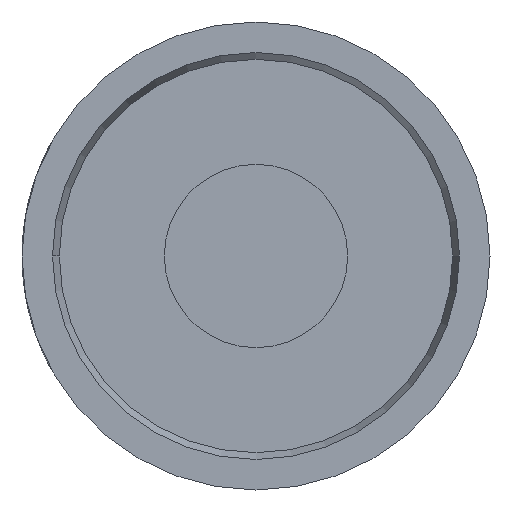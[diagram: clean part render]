
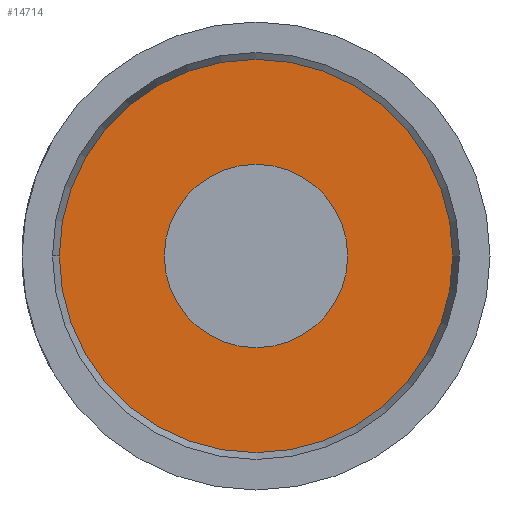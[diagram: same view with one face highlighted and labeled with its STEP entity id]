
A CAD part, left-side view. The second image highlights one B-rep face of the part: STEP entity #14714.
In plain terms, the highlighted planar face has unit normal (-1, 0, 0).
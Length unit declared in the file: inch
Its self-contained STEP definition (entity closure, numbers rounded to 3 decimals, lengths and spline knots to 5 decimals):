
#1482 = DIRECTION ( 'NONE',  ( 1., 0., 0. ) ) ;
#1540 = FACE_OUTER_BOUND ( 'NONE', #21934, .T. ) ;
#2971 = CIRCLE ( 'NONE', #20819, 0.105 ) ;
#3117 = VERTEX_POINT ( 'NONE', #19043 ) ;
#3201 = DIRECTION ( 'NONE',  ( 0., 1., 0. ) ) ;
#3237 = CARTESIAN_POINT ( 'NONE',  ( -1.225, 0., 0. ) ) ;
#3270 = CARTESIAN_POINT ( 'NONE',  ( -1.225, 0.105, 0. ) ) ;
#4043 = AXIS2_PLACEMENT_3D ( 'NONE', #3237, #4804, #4948 ) ;
#4197 = ORIENTED_EDGE ( 'NONE', *, *, #8684, .F. ) ;
#4686 = VERTEX_POINT ( 'NONE', #13903 ) ;
#4691 = CIRCLE ( 'NONE', #14804, 0.04895 ) ;
#4732 = ORIENTED_EDGE ( 'NONE', *, *, #17180, .T. ) ;
#4804 = DIRECTION ( 'NONE',  ( -1., 0., 0. ) ) ;
#4948 = DIRECTION ( 'NONE',  ( 0., -1., 0. ) ) ;
#6492 = ORIENTED_EDGE ( 'NONE', *, *, #17838, .T. ) ;
#8107 = DIRECTION ( 'NONE',  ( 0., -1., 0. ) ) ;
#8231 = DIRECTION ( 'NONE',  ( -1., 0., 0. ) ) ;
#8684 = EDGE_CURVE ( 'NONE', #3117, #4686, #4691, .T. ) ;
#10044 = CARTESIAN_POINT ( 'NONE',  ( -1.225, -0.105, 0. ) ) ;
#10760 = EDGE_CURVE ( 'NONE', #4686, #3117, #15997, .T. ) ;
#11707 = PLANE ( 'NONE',  #21041 ) ;
#12883 = VERTEX_POINT ( 'NONE', #3270 ) ;
#12905 = VERTEX_POINT ( 'NONE', #10044 ) ;
#13903 = CARTESIAN_POINT ( 'NONE',  ( -1.225, -0.04895, 0. ) ) ;
#14140 = CIRCLE ( 'NONE', #21815, 0.105 ) ;
#14580 = DIRECTION ( 'NONE',  ( -1., 0., 0. ) ) ;
#14714 = ADVANCED_FACE ( 'NONE', ( #15413, #1540 ), #11707, .F. ) ;
#14736 = DIRECTION ( 'NONE',  ( 0., -1., 0. ) ) ;
#14804 = AXIS2_PLACEMENT_3D ( 'NONE', #18395, #8231, #21724 ) ;
#14858 = CARTESIAN_POINT ( 'NONE',  ( -1.225, 0., 0. ) ) ;
#15413 = FACE_BOUND ( 'NONE', #21136, .T. ) ;
#15997 = CIRCLE ( 'NONE', #4043, 0.04895 ) ;
#16049 = ORIENTED_EDGE ( 'NONE', *, *, #10760, .F. ) ;
#16650 = CARTESIAN_POINT ( 'NONE',  ( -1.225, 0.105, 0. ) ) ;
#17180 = EDGE_CURVE ( 'NONE', #12883, #12905, #2971, .T. ) ;
#17838 = EDGE_CURVE ( 'NONE', #12905, #12883, #14140, .T. ) ;
#18115 = DIRECTION ( 'NONE',  ( -1., 0., 0. ) ) ;
#18395 = CARTESIAN_POINT ( 'NONE',  ( -1.225, 0., 0. ) ) ;
#19043 = CARTESIAN_POINT ( 'NONE',  ( -1.225, 0.04895, 0. ) ) ;
#19705 = CARTESIAN_POINT ( 'NONE',  ( -1.225, 0., 0. ) ) ;
#20819 = AXIS2_PLACEMENT_3D ( 'NONE', #19705, #14580, #14736 ) ;
#21041 = AXIS2_PLACEMENT_3D ( 'NONE', #16650, #1482, #3201 ) ;
#21136 = EDGE_LOOP ( 'NONE', ( #16049, #4197 ) ) ;
#21724 = DIRECTION ( 'NONE',  ( 0., -1., 0. ) ) ;
#21815 = AXIS2_PLACEMENT_3D ( 'NONE', #14858, #18115, #8107 ) ;
#21934 = EDGE_LOOP ( 'NONE', ( #6492, #4732 ) ) ;
